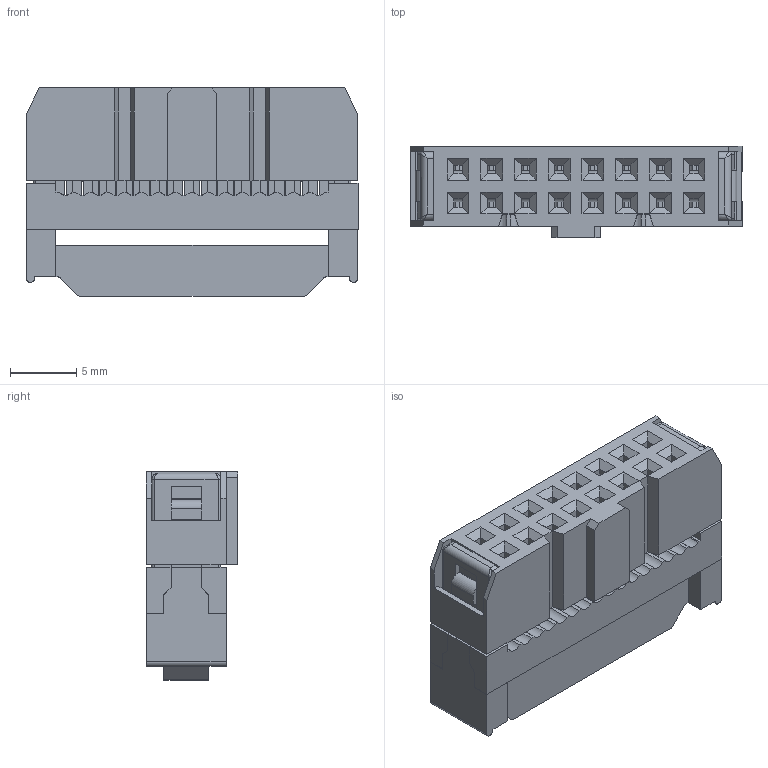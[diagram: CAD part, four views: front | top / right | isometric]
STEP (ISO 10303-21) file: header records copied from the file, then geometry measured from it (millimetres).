
FILE_DESCRIPTION(('FreeCAD Model'),'2;1');
FILE_NAME('C:/Users/Metaltex-99/Desktop/L-16.stp','2020-12-09T08:21:01', ('Engenharia Metaltex'),('Metaltex'),'Open CASCADE STEP processor 7.3' ,'FreeCAD','Unknown');
FILE_SCHEMA(('AUTOMOTIVE_DESIGN { 1 0 10303 214 1 1 1 1 }'));
Length unit declared in the file: millimetre
Products named in the file (4): L-16; 2; 3; 1
Assembly tree (3 placements, depth 2):
  L-16
    2
    3
    1
Bounding box: 25 x 6.86 x 15.7 mm (x, y, z)
Volume: 843.6 mm3; surface area: 3304.9 mm2
Topology: 2 solids, 19 shells, 1071 faces, 2947 edges, 1908 vertices
Faces by surface type: plane 812, cylinder 236, extrusion 11, sphere 4, torus 4, bspline 4
Entity records: 73646 total; most frequent: CARTESIAN_POINT 14043, DIRECTION 11149, VECTOR 7655, LINE 7644, ORIENTED_EDGE 5886, PCURVE 5886, DEFINITIONAL_REPRESENTATION 5886, EDGE_CURVE 2943
